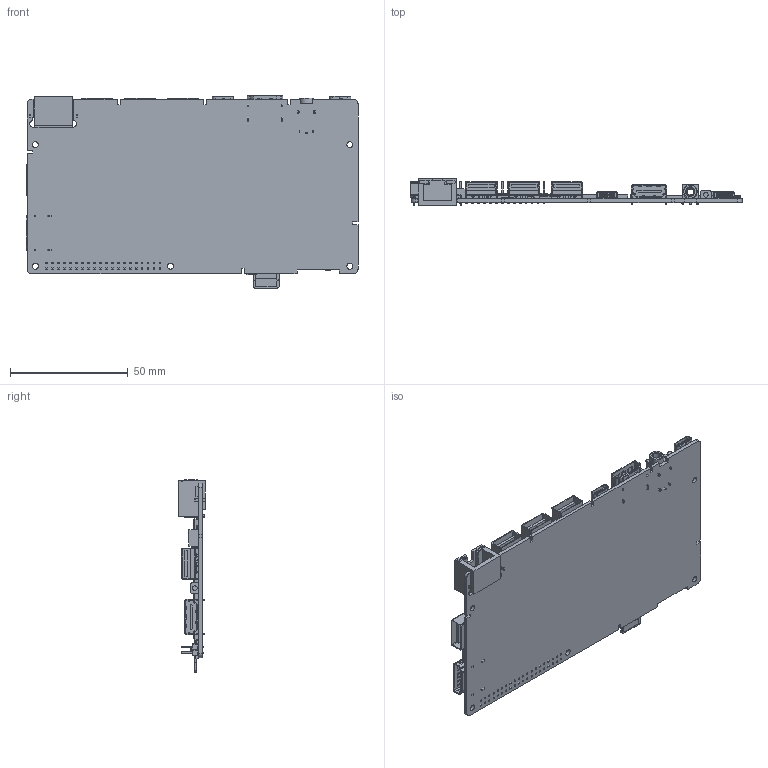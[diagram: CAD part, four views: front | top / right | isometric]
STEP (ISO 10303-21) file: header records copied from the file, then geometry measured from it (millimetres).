
FILE_DESCRIPTION((''),'2;1');
FILE_NAME('PS004_PCBA_ASM','2023-09-20T14:50:15',('admin'),(''),'CREO PARAMETRIC BY PTC INC, 2023072','CREO PARAMETRIC BY PTC INC, 2023072','');
FILE_SCHEMA(('CONFIG_CONTROL_DESIGN','SHAPE_APPEARANCE_LAYERS_GROUPS'));
Products named in the file (25): PCB_147_6; PS006_PCBA; PCBA_TOP_5; PCBA_BOT_5; PCBA_0606_ASM_5_ASM; PRT0003_4_5; 1-2_1_5; USB-2583_1_3_5; USB-16PIN-TYPEC_FIN_1_252_2_5; 123123_3_5; PJ-322YBC_1_00; TS-1035-A_9_5; 000_9_5; MICRO-RFB01-H10-01_3; MICRO-RFB01-S10-02_1; MICRO-RFB01-T00-03_3; MICRO-RFB01-A10-00_ASM_3_ASM; MICRO-RFB01-A10-00_ASM_ASM; MSBR-1_1_2_1_5_1; TF-CARD_1_2_1_5_1; CSTT-102010222__ASM_3_ASM_2_ASM_ASM; TF_14M75X14M5_H2M0_ASM_2_ASM_3__ASM; TF_14M75X14M5_H2_ASM; P_PS004_01; PS004_PCBA_ASM
Assembly tree (34 placements, depth 5):
  PS004_PCBA_ASM
    PCBA_0606_ASM_5_ASM
      PCB_147_6
      PS006_PCBA
      PCBA_TOP_5
      PCBA_BOT_5
    PRT0003_4_5
    1-2_1_5
    USB-2583_1_3_5  x4
    USB-16PIN-TYPEC_FIN_1_252_2_5  x2
    123123_3_5  x2
    PJ-322YBC_1_00
    TS-1035-A_9_5  x3
    000_9_5
    MICRO-RFB01-A10-00_ASM_ASM  x3
      MICRO-RFB01-A10-00_ASM_3_ASM
        MICRO-RFB01-H10-01_3
        MICRO-RFB01-S10-02_1
        MICRO-RFB01-T00-03_3
    TF_14M75X14M5_H2_ASM
      TF_14M75X14M5_H2M0_ASM_2_ASM_3__ASM
        CSTT-102010222__ASM_3_ASM_2_ASM_ASM
          MSBR-1_1_2_1_5_1
          TF-CARD_1_2_1_5_1  x2
    P_PS004_01
Bounding box: 141.15 x 11.4 x 81.7 mm (x, y, z)
Volume: 24537.5 mm3; surface area: 43217.8 mm2
Topology: 29 solids, 37 shells, 5739 faces, 168059 edges, 234600 vertices
Faces by surface type: plane 4317, cylinder 1187, bspline 96, torus 69, cone 40, extrusion 16, sphere 12, revolution 2
Entity records: 1458031 total; most frequent: DIRECTION 261559, CARTESIAN_POINT 184484, PRESENTATION_STYLE_ASSIGNMENT 155157, STYLED_ITEM 155157, CURVE_STYLE 154461, TRIMMED_CURVE 151844, AXIS2_PLACEMENT_3D 94453, CIRCLE 90310
